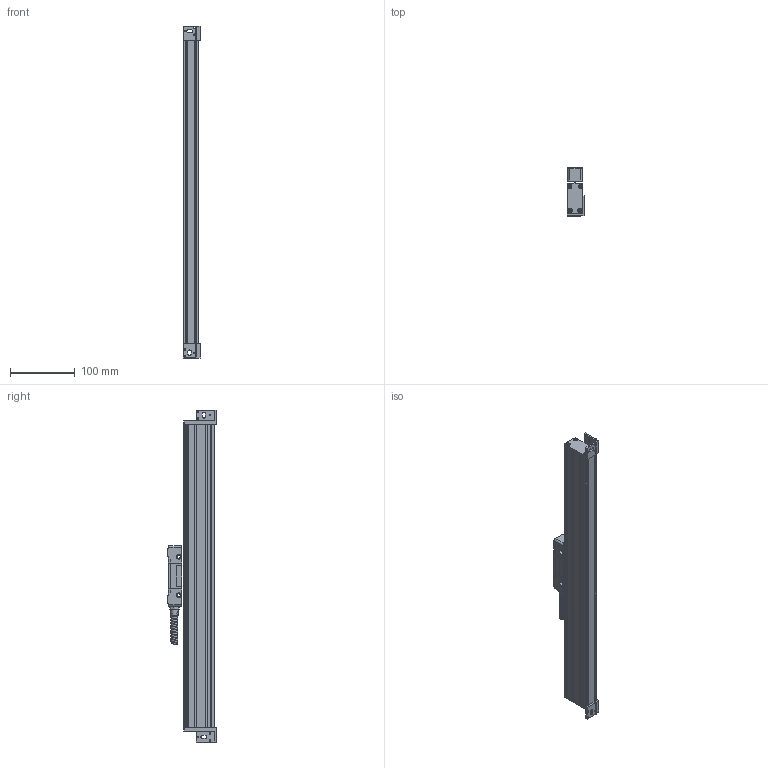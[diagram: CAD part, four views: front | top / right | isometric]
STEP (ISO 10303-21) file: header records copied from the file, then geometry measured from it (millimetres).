
FILE_DESCRIPTION (( 'STEP AP214' ), '1' );
FILE_NAME ('MLC310x0350.STEP', '2021-05-08T11:48:19', ( '' ), ( '' ), 'SwSTEP 2.0', 'SolidWorks 2014', '' );
FILE_SCHEMA (( 'AUTOMOTIVE_DESIGN' ));
Length unit declared in the file: millimetre
Products named in the file (1): MLC310x0350
Bounding box: 27 x 75.15 x 514 mm (x, y, z)
Surface area: 102260.9 mm2 (no closed solid volume)
Topology: 0 solids, 21 shells, 458 faces, 1689 edges, 1239 vertices
Faces by surface type: plane 183, cylinder 149, cone 83, bspline 33, torus 10
Entity records: 33787 total; most frequent: CARTESIAN_POINT 14553, DIRECTION 2896, ORIENTED_EDGE 2785, EDGE_CURVE 1681, VERTEX_POINT 1239, AXIS2_PLACEMENT_3D 1008, VECTOR 880, LINE 880
